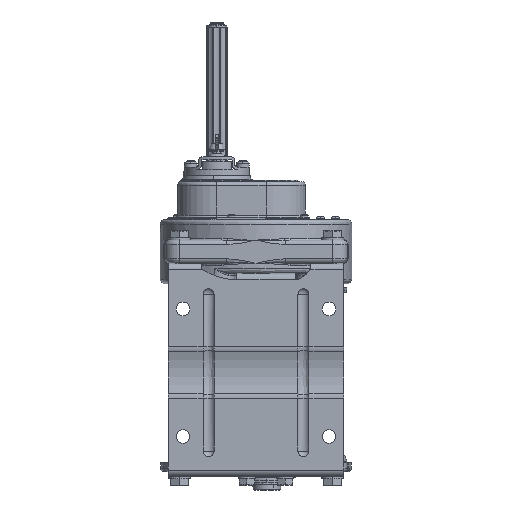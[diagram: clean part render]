
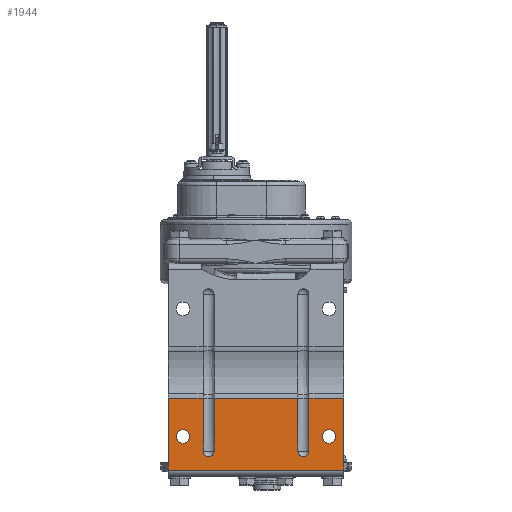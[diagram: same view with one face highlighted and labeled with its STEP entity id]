
A CAD part, front view. The second image highlights one B-rep face of the part: STEP entity #1944.
In plain terms, the highlighted planar face has unit normal (0, -1, 0).
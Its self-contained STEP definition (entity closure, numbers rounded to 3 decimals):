
#1944=ADVANCED_FACE('',(#21273,#21274,#21275),#21272,.T.);
#21272=PLANE('',#44754);
#21273=FACE_OUTER_BOUND('',#44755,.T.);
#21274=FACE_BOUND('',#44756,.T.);
#21275=FACE_BOUND('',#44757,.T.);
#44751=CARTESIAN_POINT('',(-563.379,-21.5,158.997));
#44752=DIRECTION('',(0.,-1.,0.));
#44753=DIRECTION('',(0.,0.,1.));
#44754=AXIS2_PLACEMENT_3D('',#44751,#44752,#44753);
#44755=EDGE_LOOP('',(#60692,#60693,#60694,#60695,#60696,#60697,#60698,#60699,#60700,#60701,#60702,#60703));
#44756=EDGE_LOOP('',(#60704,#60705));
#44757=EDGE_LOOP('',(#60706,#60707));
#60692=ORIENTED_EDGE('',*,*,#70501,.F.);
#60693=ORIENTED_EDGE('',*,*,#70498,.F.);
#60694=ORIENTED_EDGE('',*,*,#70502,.T.);
#60695=ORIENTED_EDGE('',*,*,#70286,.T.);
#60696=ORIENTED_EDGE('',*,*,#70474,.F.);
#60697=ORIENTED_EDGE('',*,*,#70471,.T.);
#60698=ORIENTED_EDGE('',*,*,#70473,.T.);
#60699=ORIENTED_EDGE('',*,*,#70238,.T.);
#60700=ORIENTED_EDGE('',*,*,#70478,.F.);
#60701=ORIENTED_EDGE('',*,*,#70479,.F.);
#60702=ORIENTED_EDGE('',*,*,#70475,.T.);
#60703=ORIENTED_EDGE('',*,*,#70299,.T.);
#60704=ORIENTED_EDGE('',*,*,#70503,.F.);
#60705=ORIENTED_EDGE('',*,*,#70504,.F.);
#60706=ORIENTED_EDGE('',*,*,#70505,.F.);
#60707=ORIENTED_EDGE('',*,*,#70506,.F.);
#70238=EDGE_CURVE('',#105808,#105823,#105830,.T.);
#70286=EDGE_CURVE('',#106146,#105912,#106147,.T.);
#70299=EDGE_CURVE('',#105965,#106225,#106232,.T.);
#70471=EDGE_CURVE('',#107382,#107374,#107383,.T.);
#70473=EDGE_CURVE('',#107374,#105808,#107395,.T.);
#70474=EDGE_CURVE('',#107382,#105912,#107401,.T.);
#70475=EDGE_CURVE('',#107407,#105965,#107408,.T.);
#70478=EDGE_CURVE('',#107421,#105823,#107428,.T.);
#70479=EDGE_CURVE('',#107407,#107421,#107434,.T.);
#70498=EDGE_CURVE('',#107556,#107557,#107558,.T.);
#70501=EDGE_CURVE('',#107557,#106225,#107576,.T.);
#70502=EDGE_CURVE('',#107556,#106146,#107582,.T.);
#70503=EDGE_CURVE('',#107588,#107589,#107590,.T.);
#70504=EDGE_CURVE('',#107589,#107588,#107596,.T.);
#70505=EDGE_CURVE('',#107602,#107603,#107604,.T.);
#70506=EDGE_CURVE('',#107603,#107602,#107610,.T.);
#105808=VERTEX_POINT('',#141009);
#105823=VERTEX_POINT('',#141019);
#105830=LINE('',#141024,#141025);
#105912=VERTEX_POINT('',#141080);
#105965=VERTEX_POINT('',#141117);
#106146=VERTEX_POINT('',#141233);
#106147=LINE('',#141234,#141235);
#106225=VERTEX_POINT('',#141281);
#106232=LINE('',#141286,#141287);
#107374=VERTEX_POINT('',#142106);
#107382=VERTEX_POINT('',#142112);
#107383=CIRCLE('',#142116,6.);
#107395=LINE('',#142121,#142122);
#107401=LINE('',#142124,#142125);
#107407=VERTEX_POINT('',#142127);
#107408=LINE('',#142128,#142129);
#107421=VERTEX_POINT('',#142136);
#107428=LINE('',#142141,#142142);
#107434=CIRCLE('',#142147,6.);
#107556=VERTEX_POINT('',#142215);
#107557=VERTEX_POINT('',#142216);
#107558=LINE('',#142217,#142218);
#107576=LINE('',#142228,#142229);
#107582=LINE('',#142231,#142232);
#107588=VERTEX_POINT('',#142234);
#107589=VERTEX_POINT('',#142235);
#107590=CIRCLE('',#142239,7.5);
#107596=CIRCLE('',#142243,7.5);
#107602=VERTEX_POINT('',#142244);
#107603=VERTEX_POINT('',#142245);
#107604=CIRCLE('',#142249,7.5);
#107610=CIRCLE('',#142253,7.5);
#141009=CARTESIAN_POINT('',(-623.379,-21.5,245.352));
#141019=CARTESIAN_POINT('',(-715.379,-21.5,245.352));
#141024=CARTESIAN_POINT('',(-623.379,-21.5,245.352));
#141025=VECTOR('',#141026,92.);
#141026=DIRECTION('',(-1.,0.,0.));
#141080=CARTESIAN_POINT('',(-611.379,-21.5,245.352));
#141117=CARTESIAN_POINT('',(-727.379,-21.5,245.352));
#141233=CARTESIAN_POINT('',(-573.379,-21.5,245.352));
#141234=CARTESIAN_POINT('',(-573.379,-21.5,245.352));
#141235=VECTOR('',#141236,38.);
#141236=DIRECTION('',(-1.,0.,0.));
#141281=CARTESIAN_POINT('',(-765.379,-21.5,245.352));
#141286=CARTESIAN_POINT('',(-727.379,-21.5,245.352));
#141287=VECTOR('',#141288,38.);
#141288=DIRECTION('',(-1.,0.,0.));
#142106=CARTESIAN_POINT('',(-623.379,-21.5,187.645));
#142112=CARTESIAN_POINT('',(-611.379,-21.5,187.645));
#142113=CARTESIAN_POINT('',(-617.379,-21.5,187.645));
#142114=DIRECTION('',(0.,1.,0.));
#142115=DIRECTION('',(1.,0.,0.));
#142116=AXIS2_PLACEMENT_3D('',#142113,#142114,#142115);
#142121=CARTESIAN_POINT('',(-623.379,-21.5,187.645));
#142122=VECTOR('',#142123,57.706);
#142123=DIRECTION('',(0.,0.,1.));
#142124=CARTESIAN_POINT('',(-611.379,-21.5,187.645));
#142125=VECTOR('',#142126,57.706);
#142126=DIRECTION('',(0.,0.,1.));
#142127=CARTESIAN_POINT('',(-727.379,-21.5,187.645));
#142128=CARTESIAN_POINT('',(-727.379,-21.5,187.645));
#142129=VECTOR('',#142130,57.706);
#142130=DIRECTION('',(0.,0.,1.));
#142136=CARTESIAN_POINT('',(-715.379,-21.5,187.645));
#142141=CARTESIAN_POINT('',(-715.379,-21.5,187.645));
#142142=VECTOR('',#142143,57.706);
#142143=DIRECTION('',(0.,0.,1.));
#142144=CARTESIAN_POINT('',(-721.379,-21.5,187.645));
#142145=DIRECTION('',(0.,-1.,0.));
#142146=DIRECTION('',(1.,0.,0.));
#142147=AXIS2_PLACEMENT_3D('',#142144,#142145,#142146);
#142215=CARTESIAN_POINT('',(-573.379,-21.5,166.847));
#142216=CARTESIAN_POINT('',(-765.379,-21.5,166.847));
#142217=CARTESIAN_POINT('',(-573.379,-21.5,166.847));
#142218=VECTOR('',#142219,192.);
#142219=DIRECTION('',(-1.,0.,0.));
#142228=CARTESIAN_POINT('',(-765.379,-21.5,166.847));
#142229=VECTOR('',#142230,78.504);
#142230=DIRECTION('',(0.,0.,1.));
#142231=CARTESIAN_POINT('',(-573.379,-21.5,166.847));
#142232=VECTOR('',#142233,78.504);
#142233=DIRECTION('',(0.,0.,1.));
#142234=CARTESIAN_POINT('',(-589.379,-21.5,196.047));
#142235=CARTESIAN_POINT('',(-589.379,-21.5,211.047));
#142236=CARTESIAN_POINT('',(-589.379,-21.5,203.547));
#142237=DIRECTION('',(0.,-1.,0.));
#142238=DIRECTION('',(0.,0.,1.));
#142239=AXIS2_PLACEMENT_3D('',#142236,#142237,#142238);
#142240=CARTESIAN_POINT('',(-589.379,-21.5,203.547));
#142241=DIRECTION('',(0.,-1.,0.));
#142242=DIRECTION('',(0.,0.,1.));
#142243=AXIS2_PLACEMENT_3D('',#142240,#142241,#142242);
#142244=CARTESIAN_POINT('',(-749.379,-21.5,196.047));
#142245=CARTESIAN_POINT('',(-749.379,-21.5,211.047));
#142246=CARTESIAN_POINT('',(-749.379,-21.5,203.547));
#142247=DIRECTION('',(0.,-1.,0.));
#142248=DIRECTION('',(0.,0.,1.));
#142249=AXIS2_PLACEMENT_3D('',#142246,#142247,#142248);
#142250=CARTESIAN_POINT('',(-749.379,-21.5,203.547));
#142251=DIRECTION('',(0.,-1.,0.));
#142252=DIRECTION('',(0.,0.,1.));
#142253=AXIS2_PLACEMENT_3D('',#142250,#142251,#142252);
